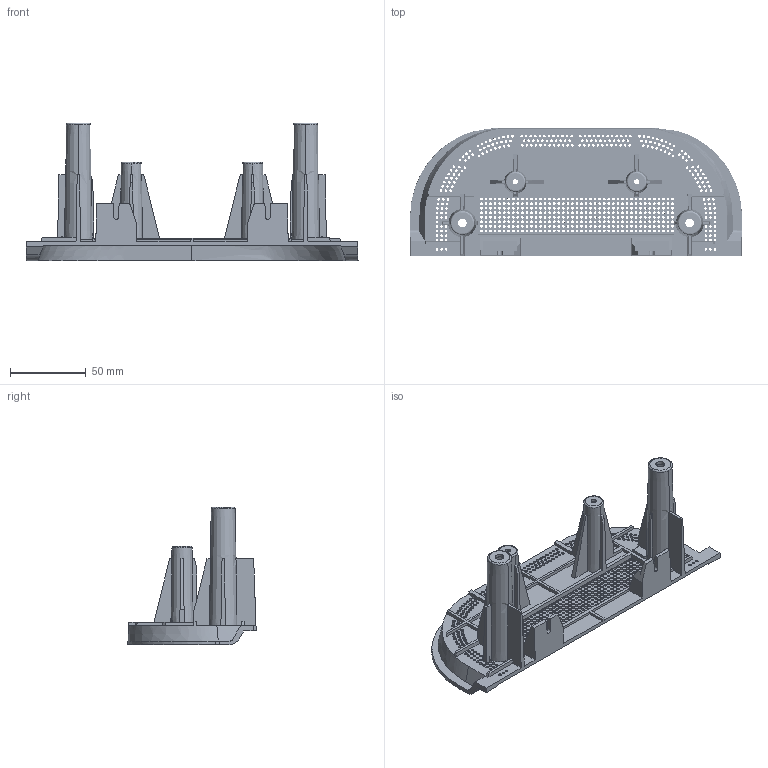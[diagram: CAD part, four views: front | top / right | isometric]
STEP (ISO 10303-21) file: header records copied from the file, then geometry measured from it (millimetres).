
FILE_DESCRIPTION (( 'STEP AP214' ), '1' );
FILE_NAME ('shorty_antenna_cover.STEP', '2017-07-28T02:13:30', ( '' ), ( '' ), 'SwSTEP 2.0', 'SolidWorks 2016', '' );
FILE_SCHEMA (( 'AUTOMOTIVE_DESIGN' ));
Length unit declared in the file: inch
Products named in the file (2): shorty_antenna_cover
Bounding box: 219 x 84.66 x 90.84 mm (x, y, z)
Volume: 91068.5 mm3; surface area: 80067.1 mm2
Topology: 1 solids, 1 shells, 1451 faces, 4384 edges, 2921 vertices
Faces by surface type: cone 1188, plane 223, bspline 30, cylinder 10
Entity records: 67781 total; most frequent: CARTESIAN_POINT 25603, ORIENTED_EDGE 8756, DIRECTION 8514, EDGE_CURVE 4378, AXIS2_PLACEMENT_3D 3433, VERTEX_POINT 2921, EDGE_LOOP 2615, CIRCLE 2010
